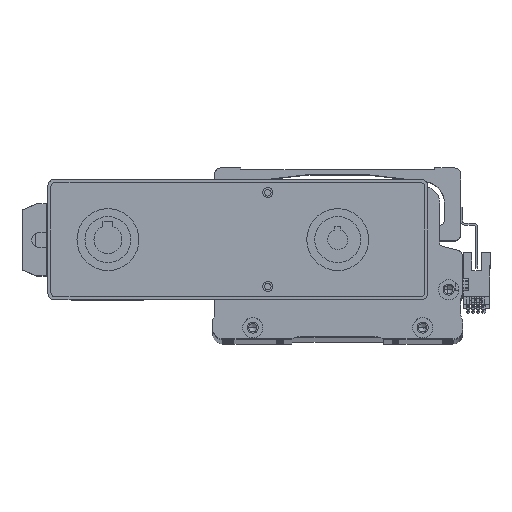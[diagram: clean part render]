
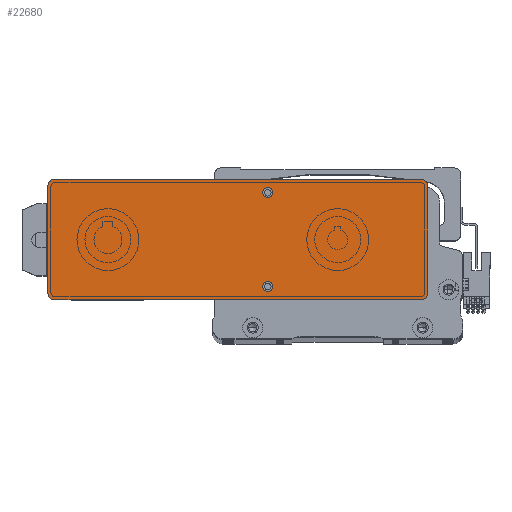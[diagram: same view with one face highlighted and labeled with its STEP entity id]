
A CAD part, top view. The second image highlights one B-rep face of the part: STEP entity #22680.
In plain terms, the highlighted planar face has unit normal (0, 0, 1) as drawn and (0, 0, -1) by its records, which use the part's own axes.
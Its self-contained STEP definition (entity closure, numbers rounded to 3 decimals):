
#1922 = ORIENTED_EDGE ( 'NONE', *, *, #72301, .F. ) ;
#2539 = ORIENTED_EDGE ( 'NONE', *, *, #21841, .T. ) ;
#2679 = VERTEX_POINT ( 'NONE', #48691 ) ;
#3654 = DIRECTION ( 'NONE',  ( 1., 0., 0. ) ) ;
#4072 = CARTESIAN_POINT ( 'NONE',  ( 95., 27., 0. ) ) ;
#4607 = VERTEX_POINT ( 'NONE', #4072 ) ;
#6067 = ORIENTED_EDGE ( 'NONE', *, *, #32980, .F. ) ;
#8185 = AXIS2_PLACEMENT_3D ( 'NONE', #80488, #42054, #3654 ) ;
#8294 = CARTESIAN_POINT ( 'NONE',  ( -92., -30., 0. ) ) ;
#9507 = ORIENTED_EDGE ( 'NONE', *, *, #22073, .T. ) ;
#9524 = CIRCLE ( 'NONE', #45633, 2.5 ) ;
#10349 = DIRECTION ( 'NONE',  ( 0., 0., -1. ) ) ;
#11411 = DIRECTION ( 'NONE',  ( 0., 0., -1. ) ) ;
#11985 = CARTESIAN_POINT ( 'NONE',  ( -95., -27., 0. ) ) ;
#12567 = CARTESIAN_POINT ( 'NONE',  ( -17.5, -23.5, 0. ) ) ;
#14081 = CARTESIAN_POINT ( 'NONE',  ( -17.5, 23.5, 0. ) ) ;
#15295 = CIRCLE ( 'NONE', #27616, 2.5 ) ;
#16616 = FACE_OUTER_BOUND ( 'NONE', #57287, .T. ) ;
#17717 = ORIENTED_EDGE ( 'NONE', *, *, #71294, .F. ) ;
#19176 = VECTOR ( 'NONE', #55979, 1000. ) ;
#19704 = DIRECTION ( 'NONE',  ( 0., 0., -1. ) ) ;
#19983 = LINE ( 'NONE', #83048, #52074 ) ;
#20144 = CARTESIAN_POINT ( 'NONE',  ( 95., -30., 0. ) ) ;
#21186 = ORIENTED_EDGE ( 'NONE', *, *, #68866, .T. ) ;
#21841 = EDGE_CURVE ( 'NONE', #76065, #2679, #45948, .T. ) ;
#22073 = EDGE_CURVE ( 'NONE', #59782, #61815, #34839, .T. ) ;
#22183 = LINE ( 'NONE', #20144, #69303 ) ;
#22192 = EDGE_CURVE ( 'NONE', #81858, #41675, #42828, .T. ) ;
#22680 = ADVANCED_FACE ( 'NONE', ( #82806, #16616, #65715 ), #73711, .F. ) ;
#23932 = CARTESIAN_POINT ( 'NONE',  ( -12.5, -23.5, 0. ) ) ;
#24534 = CARTESIAN_POINT ( 'NONE',  ( -15., 23.5, 0. ) ) ;
#25587 = DIRECTION ( 'NONE',  ( 0., -1., 0. ) ) ;
#27214 = CARTESIAN_POINT ( 'NONE',  ( -95., 27., 0. ) ) ;
#27616 = AXIS2_PLACEMENT_3D ( 'NONE', #58066, #19704, #64512 ) ;
#28080 = AXIS2_PLACEMENT_3D ( 'NONE', #49797, #11411, #56217 ) ;
#28541 = DIRECTION ( 'NONE',  ( 0., 0., -1. ) ) ;
#28676 = DIRECTION ( 'NONE',  ( 0., 0., -1. ) ) ;
#30092 = ORIENTED_EDGE ( 'NONE', *, *, #22192, .F. ) ;
#30945 = DIRECTION ( 'NONE',  ( -1., 0., 0. ) ) ;
#31361 = VECTOR ( 'NONE', #82220, 1000. ) ;
#32955 = AXIS2_PLACEMENT_3D ( 'NONE', #41473, #35292, #80177 ) ;
#32980 = EDGE_CURVE ( 'NONE', #41675, #81858, #9524, .T. ) ;
#33174 = CARTESIAN_POINT ( 'NONE',  ( -92., -27., 0. ) ) ;
#34706 = EDGE_CURVE ( 'NONE', #59782, #51745, #22183, .T. ) ;
#34839 = CIRCLE ( 'NONE', #43673, 3. ) ;
#35292 = DIRECTION ( 'NONE',  ( 0., 0., 1. ) ) ;
#37334 = CARTESIAN_POINT ( 'NONE',  ( 95., 30., 0. ) ) ;
#38881 = VERTEX_POINT ( 'NONE', #76276 ) ;
#39105 = EDGE_CURVE ( 'NONE', #72821, #4607, #68471, .T. ) ;
#39633 = DIRECTION ( 'NONE',  ( 1., 0., 0. ) ) ;
#41473 = CARTESIAN_POINT ( 'NONE',  ( 0., 0., 0. ) ) ;
#41675 = VERTEX_POINT ( 'NONE', #23932 ) ;
#42054 = DIRECTION ( 'NONE',  ( 0., 0., -1. ) ) ;
#42640 = ORIENTED_EDGE ( 'NONE', *, *, #48014, .F. ) ;
#42828 = CIRCLE ( 'NONE', #59228, 2.5 ) ;
#43673 = AXIS2_PLACEMENT_3D ( 'NONE', #33174, #78076, #39633 ) ;
#44231 = ORIENTED_EDGE ( 'NONE', *, *, #34706, .F. ) ;
#44444 = CIRCLE ( 'NONE', #76625, 2.5 ) ;
#45633 = AXIS2_PLACEMENT_3D ( 'NONE', #48731, #10349, #55180 ) ;
#45948 = CIRCLE ( 'NONE', #28080, 3. ) ;
#48014 = EDGE_CURVE ( 'NONE', #38881, #77050, #44444, .T. ) ;
#48691 = CARTESIAN_POINT ( 'NONE',  ( -92., 30., 0. ) ) ;
#48731 = CARTESIAN_POINT ( 'NONE',  ( -15., -23.5, 0. ) ) ;
#49797 = CARTESIAN_POINT ( 'NONE',  ( -92., 27., 0. ) ) ;
#51596 = VERTEX_POINT ( 'NONE', #74962 ) ;
#51745 = VERTEX_POINT ( 'NONE', #56948 ) ;
#52074 = VECTOR ( 'NONE', #25587, 1000. ) ;
#55180 = DIRECTION ( 'NONE',  ( -1., 0., 0. ) ) ;
#55979 = DIRECTION ( 'NONE',  ( 0., 1., 0. ) ) ;
#56217 = DIRECTION ( 'NONE',  ( 1., 0., 0. ) ) ;
#56948 = CARTESIAN_POINT ( 'NONE',  ( 92., -30., 0. ) ) ;
#57287 = EDGE_LOOP ( 'NONE', ( #17717, #21186, #44231, #9507, #1922, #2539, #83170, #80082 ) ) ;
#58066 = CARTESIAN_POINT ( 'NONE',  ( -15., 23.5, 0. ) ) ;
#59228 = AXIS2_PLACEMENT_3D ( 'NONE', #67090, #28676, #73540 ) ;
#59529 = EDGE_LOOP ( 'NONE', ( #30092, #6067 ) ) ;
#59782 = VERTEX_POINT ( 'NONE', #8294 ) ;
#61815 = VERTEX_POINT ( 'NONE', #11985 ) ;
#63288 = CARTESIAN_POINT ( 'NONE',  ( 92., 30., 0. ) ) ;
#64512 = DIRECTION ( 'NONE',  ( -1., 0., 0. ) ) ;
#64966 = DIRECTION ( 'NONE',  ( 1., 0., 0. ) ) ;
#65487 = EDGE_LOOP ( 'NONE', ( #83064, #42640 ) ) ;
#65715 = FACE_BOUND ( 'NONE', #59529, .T. ) ;
#66639 = EDGE_CURVE ( 'NONE', #72821, #2679, #80546, .T. ) ;
#66745 = EDGE_CURVE ( 'NONE', #77050, #38881, #15295, .T. ) ;
#66846 = CIRCLE ( 'NONE', #8185, 3. ) ;
#66970 = CARTESIAN_POINT ( 'NONE',  ( 92., 27., 0. ) ) ;
#67090 = CARTESIAN_POINT ( 'NONE',  ( -15., -23.5, 0. ) ) ;
#68471 = CIRCLE ( 'NONE', #80066, 3. ) ;
#68866 = EDGE_CURVE ( 'NONE', #51596, #51745, #66846, .T. ) ;
#69303 = VECTOR ( 'NONE', #64966, 1000. ) ;
#69374 = DIRECTION ( 'NONE',  ( 0., 0., -1. ) ) ;
#70303 = LINE ( 'NONE', #75094, #19176 ) ;
#71294 = EDGE_CURVE ( 'NONE', #51596, #4607, #70303, .T. ) ;
#72301 = EDGE_CURVE ( 'NONE', #76065, #61815, #19983, .T. ) ;
#72821 = VERTEX_POINT ( 'NONE', #63288 ) ;
#73402 = DIRECTION ( 'NONE',  ( 1., 0., 0. ) ) ;
#73540 = DIRECTION ( 'NONE',  ( -1., 0., 0. ) ) ;
#73711 = PLANE ( 'NONE',  #32955 ) ;
#74962 = CARTESIAN_POINT ( 'NONE',  ( 95., -27., 0. ) ) ;
#75094 = CARTESIAN_POINT ( 'NONE',  ( 95., -30., 0. ) ) ;
#76065 = VERTEX_POINT ( 'NONE', #27214 ) ;
#76276 = CARTESIAN_POINT ( 'NONE',  ( -12.5, 23.5, 0. ) ) ;
#76625 = AXIS2_PLACEMENT_3D ( 'NONE', #24534, #69374, #30945 ) ;
#77050 = VERTEX_POINT ( 'NONE', #14081 ) ;
#78076 = DIRECTION ( 'NONE',  ( 0., 0., -1. ) ) ;
#80066 = AXIS2_PLACEMENT_3D ( 'NONE', #66970, #28541, #73402 ) ;
#80082 = ORIENTED_EDGE ( 'NONE', *, *, #39105, .T. ) ;
#80177 = DIRECTION ( 'NONE',  ( 1., 0., 0. ) ) ;
#80488 = CARTESIAN_POINT ( 'NONE',  ( 92., -27., 0. ) ) ;
#80546 = LINE ( 'NONE', #37334, #31361 ) ;
#81858 = VERTEX_POINT ( 'NONE', #12567 ) ;
#82220 = DIRECTION ( 'NONE',  ( -1., 0., 0. ) ) ;
#82806 = FACE_BOUND ( 'NONE', #65487, .T. ) ;
#83048 = CARTESIAN_POINT ( 'NONE',  ( -95., -30., 0. ) ) ;
#83064 = ORIENTED_EDGE ( 'NONE', *, *, #66745, .F. ) ;
#83170 = ORIENTED_EDGE ( 'NONE', *, *, #66639, .F. ) ;
